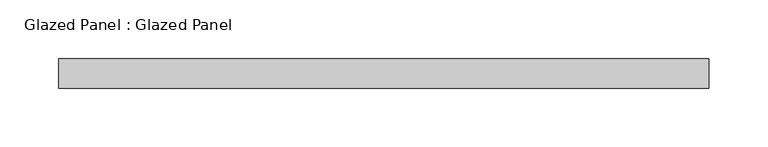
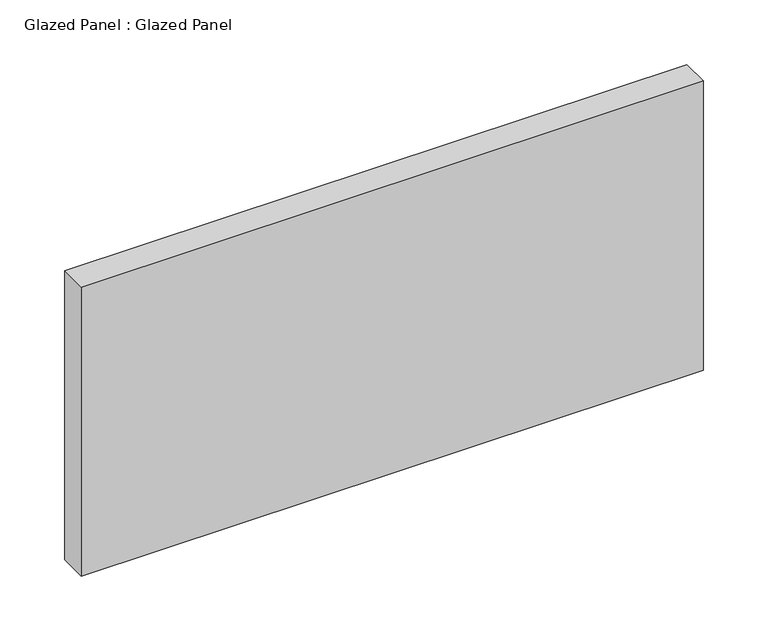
"""IFC4 building model written with IfcOpenShell, lengths in millimetres: plate geometry, Glazed Panel : Glazed Panel."""

from ifc_helpers import new_model, si_unit, origin, origin_with_axes, place, context, project, spatial, polyline, outline, extrude, source, transform, mapped, element, save


def glazed_panel_glazed_panel_fd88623c(model_context):
    return source(origin(), model_context, "Body", "SweptSolid", [
        extrude(outline(polyline([(277.8125, 38.1), (-277.8125, 38.1), (-277.8125, 63.5), (277.8125, 63.5), (277.8125, 38.1)])), origin_with_axes(), (0.0, 0.0, 1.0), 273.05),
    ])


if __name__ == "__main__":
    model = new_model("IFC4")
    model_context = context("Model", 3, world=origin())
    ifc_project = project(units=[si_unit("LENGTHUNIT", "METRE", prefix="MILLI")], contexts=[model_context])
    site = spatial("IfcSite", under=ifc_project)
    building = spatial("IfcBuilding", under=site)
    placement = place(None, origin())
    glazed_panel_glazed_panel_shape = glazed_panel_glazed_panel_fd88623c(model_context)
    element("IfcPlate", 1, ObjectType="Glazed Panel : Glazed Panel", at=placement, inside=building, context=model_context, shape_type="MappedRepresentation", body=[
        mapped(glazed_panel_glazed_panel_shape, transform((0.0, 0.0, 0.0), x_axis=(1.0, 0.0, 0.0), y_axis=(0.0, 1.0, 0.0), z_axis=(0.0, 0.0, 1.0))),
    ])
    save(model, "model.ifc")
